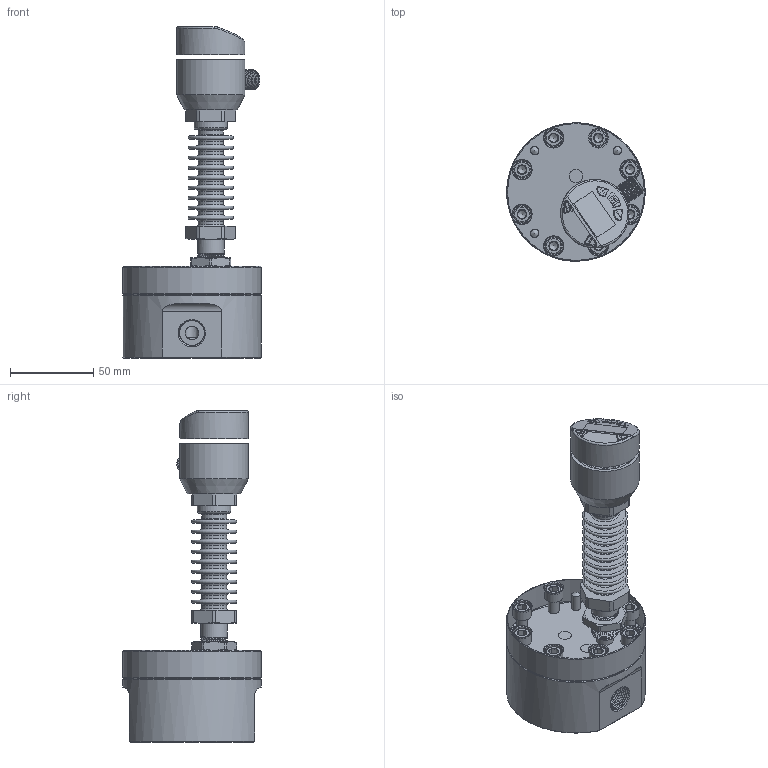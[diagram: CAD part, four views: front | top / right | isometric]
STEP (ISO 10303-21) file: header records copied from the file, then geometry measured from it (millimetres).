
FILE_DESCRIPTION( (''), '2;1');
FILE_NAME( 'QZKA_M4_high-temp.step', '2024-06-05T08:58:41+08:00', (''), (''), '', '', '');
FILE_SCHEMA (('AUTOMOTIVE_DESIGN { 1 0 10303 214 3 1 1 1 }'));
Products named in the file (1): QZKA M4_high-temp
Bounding box: 83 x 83 x 198.9 mm (x, y, z)
Volume: 306192.1 mm3; surface area: 90011.9 mm2
Topology: 13 solids, 15 shells, 814 faces, 1837 edges, 1115 vertices
Faces by surface type: plane 308, cylinder 214, cone 156, torus 84, bspline 46, sphere 6
Full cylindrical faces by diameter (mm): 1 x5, 2.7 x4, 5 x18, 5.795 x8, 6.5 x8, 8 x4, 8.4 x1, 9.7 x1, 9.8 x1, 10 x9, 10.1 x1, 11 x8, 11.6 x1, 12 x2, 15 x10, 15.9 x1, 19.5 x2, 20 x1, 23 x3, 26 x4, 26.1 x1, 37 x1, 41 x2, 83 x2
Entity records: 45443 total; most frequent: CARTESIAN_POINT 27244, DIRECTION 3510, ORIENTED_EDGE 3046, EDGE_CURVE 1523, AXIS2_PLACEMENT_3D 1477, EDGE_LOOP 1119, VERTEX_POINT 1052, ADVANCED_FACE 810
